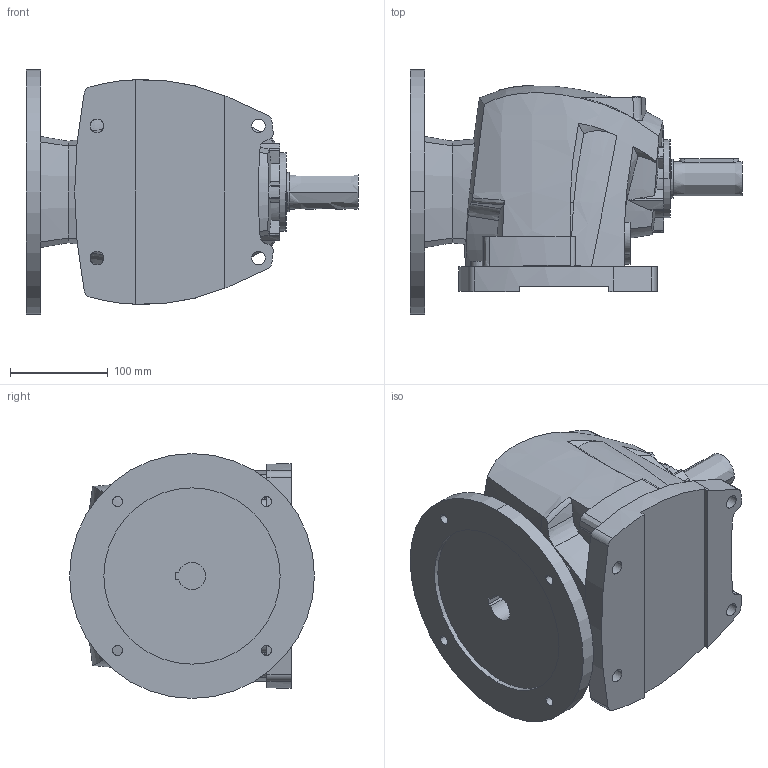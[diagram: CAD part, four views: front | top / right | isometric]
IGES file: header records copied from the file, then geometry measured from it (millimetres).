
Start section:  PTC IGES file: r30_sw_pam100112_d2.igs
Global section: file name: r30_sw_pam100112_d2.igs; native system: Pro/ENGINEER by Parametric Technology Corporation; preprocessor: 2008230; author: Luca; organization: Unknown; date: 20131119.185231; units: millimetre
Bounding box: 339 x 250 x 250 mm (x, y, z)
Volume: 7544406 mm3; surface area: 398998.4 mm2
Topology: 1 solids, 5 shells, 409 faces, 1118 edges, 747 vertices
Faces by surface type: bspline 223, revolution 163, extrusion 23
